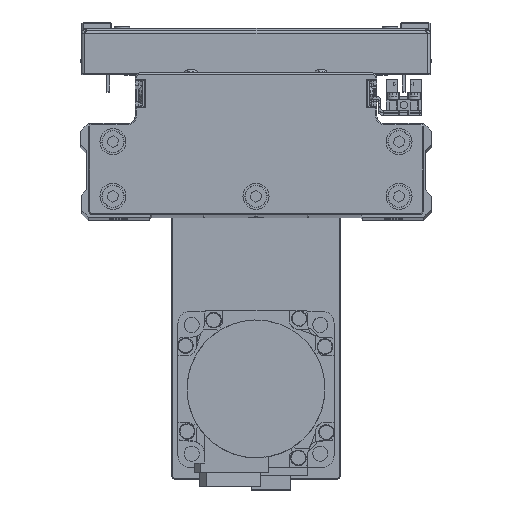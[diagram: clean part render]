
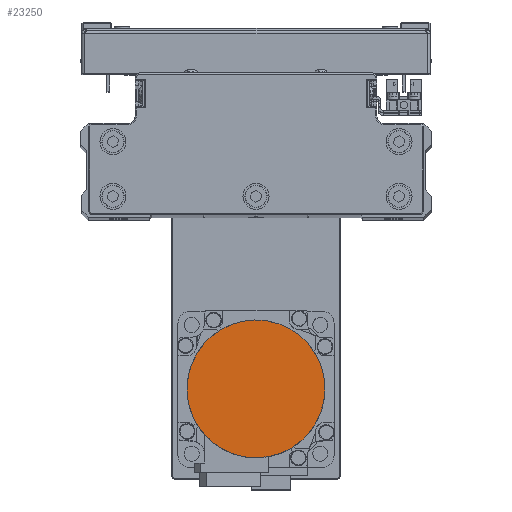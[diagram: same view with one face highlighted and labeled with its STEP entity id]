
A CAD part, top view. The second image highlights one B-rep face of the part: STEP entity #23250.
In plain terms, the highlighted planar face has unit normal (0, 0, 1) as drawn and (0, 0, -1) by its records, which use the part's own axes.
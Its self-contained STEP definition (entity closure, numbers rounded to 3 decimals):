
#751 = CARTESIAN_POINT ( 'NONE',  ( 17.512, 19.965, -109.7 ) ) ;
#965 = CARTESIAN_POINT ( 'NONE',  ( -13.28, 22.998, -109.7 ) ) ;
#1298 = PLANE ( 'NONE',  #17702 ) ;
#2313 = CARTESIAN_POINT ( 'NONE',  ( -16.165, -21.07, -109.7 ) ) ;
#2493 = VERTEX_POINT ( 'NONE', #8031 ) ;
#2531 = CARTESIAN_POINT ( 'NONE',  ( 16.165, -21.07, -109.7 ) ) ;
#4077 = CARTESIAN_POINT ( 'NONE',  ( 22.998, 13.28, -109.7 ) ) ;
#4290 = CARTESIAN_POINT ( 'NONE',  ( -6.871, 25.652, -109.7 ) ) ;
#4299 = VERTEX_POINT ( 'NONE', #35826 ) ;
#4507 = CARTESIAN_POINT ( 'NONE',  ( -26.5, 1.734, -109.7 ) ) ;
#5444 = ORIENTED_EDGE ( 'NONE', *, *, #20931, .F. ) ;
#5637 = CARTESIAN_POINT ( 'NONE',  ( -21.07, -16.165, -109.7 ) ) ;
#5849 = CARTESIAN_POINT ( 'NONE',  ( 8.539, -25.147, -109.7 ) ) ;
#6070 = CARTESIAN_POINT ( 'NONE',  ( 26.5, 0., -109.7 ) ) ;
#7387 = CARTESIAN_POINT ( 'NONE',  ( 25.652, 6.871, -109.7 ) ) ;
#7615 = CARTESIAN_POINT ( 'NONE',  ( 1.734, 26.5, -109.7 ) ) ;
#7833 = CARTESIAN_POINT ( 'NONE',  ( -25.147, 8.539, -109.7 ) ) ;
#8031 = CARTESIAN_POINT ( 'NONE',  ( 26.5, 0., -109.7 ) ) ;
#8957 = CARTESIAN_POINT ( 'NONE',  ( -25.147, -8.539, -109.7 ) ) ;
#9180 = CARTESIAN_POINT ( 'NONE',  ( 1.734, -26.5, -109.7 ) ) ;
#9397 = CARTESIAN_POINT ( 'NONE',  ( 25.652, -6.871, -109.7 ) ) ;
#10086 = EDGE_LOOP ( 'NONE', ( #34563, #5444 ) ) ;
#10712 = CARTESIAN_POINT ( 'NONE',  ( 26.5, 0., -109.7 ) ) ;
#10927 = CARTESIAN_POINT ( 'NONE',  ( 8.539, 25.147, -109.7 ) ) ;
#11153 = B_SPLINE_CURVE_WITH_KNOTS ( 'NONE', 3,
 ( #42558, #12264, #25767, #39246, #8957, #22450, #35945, #5637, #19136, #32617, #2313, #15797, #29308, #42770, #12492, #25987, #39466, #9180, #22659, #36159, #5849, #19353, #32836, #2531, #16026, #29545, #42986, #12705, #26195, #39680, #9397, #22867, #36372, #6070 ),
 .UNSPECIFIED., .F., .F.,
 ( 4, 2, 2, 2, 2, 2, 2, 2, 2, 2, 2, 2, 2, 2, 2, 2, 4 ),
 ( 0., 0.063, 0.125, 0.188, 0.25, 0.312, 0.375, 0.437, 0.5, 0.562, 0.625, 0.687, 0.75, 0.813, 0.875, 0.938, 1. ),
 .UNSPECIFIED. ) ;
#11161 = CARTESIAN_POINT ( 'NONE',  ( -21.07, 16.165, -109.7 ) ) ;
#12264 = CARTESIAN_POINT ( 'NONE',  ( -26.5, -1.734, -109.7 ) ) ;
#12492 = CARTESIAN_POINT ( 'NONE',  ( -6.871, -25.652, -109.7 ) ) ;
#12705 = CARTESIAN_POINT ( 'NONE',  ( 22.998, -13.28, -109.7 ) ) ;
#14245 = CARTESIAN_POINT ( 'NONE',  ( 16.165, 21.07, -109.7 ) ) ;
#14468 = CARTESIAN_POINT ( 'NONE',  ( -16.165, 21.07, -109.7 ) ) ;
#14800 = CARTESIAN_POINT ( 'NONE',  ( 0., 0., -109.7 ) ) ;
#15797 = CARTESIAN_POINT ( 'NONE',  ( -13.28, -22.998, -109.7 ) ) ;
#16026 = CARTESIAN_POINT ( 'NONE',  ( 17.512, -19.965, -109.7 ) ) ;
#17574 = CARTESIAN_POINT ( 'NONE',  ( 21.07, 16.165, -109.7 ) ) ;
#17702 = AXIS2_PLACEMENT_3D ( 'NONE', #14800, #28297, #41757 ) ;
#17787 = CARTESIAN_POINT ( 'NONE',  ( -8.539, 25.147, -109.7 ) ) ;
#18004 = CARTESIAN_POINT ( 'NONE',  ( -26.5, 0., -109.7 ) ) ;
#19136 = CARTESIAN_POINT ( 'NONE',  ( -19.965, -17.512, -109.7 ) ) ;
#19353 = CARTESIAN_POINT ( 'NONE',  ( 11.744, -23.819, -109.7 ) ) ;
#20889 = CARTESIAN_POINT ( 'NONE',  ( 25.147, 8.539, -109.7 ) ) ;
#20931 = EDGE_CURVE ( 'NONE', #4299, #2493, #11153, .T. ) ;
#21115 = CARTESIAN_POINT ( 'NONE',  ( -1.734, 26.5, -109.7 ) ) ;
#21328 = CARTESIAN_POINT ( 'NONE',  ( -25.652, 6.871, -109.7 ) ) ;
#22450 = CARTESIAN_POINT ( 'NONE',  ( -23.819, -11.744, -109.7 ) ) ;
#22659 = CARTESIAN_POINT ( 'NONE',  ( 3.469, -26.329, -109.7 ) ) ;
#22867 = CARTESIAN_POINT ( 'NONE',  ( 26.329, -3.469, -109.7 ) ) ;
#23250 = ADVANCED_FACE ( 'NONE', ( #31606 ), #1298, .F. ) ;
#24193 = CARTESIAN_POINT ( 'NONE',  ( 26.5, 1.734, -109.7 ) ) ;
#24411 = CARTESIAN_POINT ( 'NONE',  ( 6.871, 25.652, -109.7 ) ) ;
#24637 = CARTESIAN_POINT ( 'NONE',  ( -22.998, 13.28, -109.7 ) ) ;
#25327 = EDGE_CURVE ( 'NONE', #2493, #4299, #41019, .T. ) ;
#25767 = CARTESIAN_POINT ( 'NONE',  ( -26.329, -3.469, -109.7 ) ) ;
#25987 = CARTESIAN_POINT ( 'NONE',  ( -3.469, -26.329, -109.7 ) ) ;
#26195 = CARTESIAN_POINT ( 'NONE',  ( 23.819, -11.744, -109.7 ) ) ;
#27742 = CARTESIAN_POINT ( 'NONE',  ( 13.28, 22.998, -109.7 ) ) ;
#27963 = CARTESIAN_POINT ( 'NONE',  ( -17.512, 19.965, -109.7 ) ) ;
#28297 = DIRECTION ( 'NONE',  ( 0., 0., 1. ) ) ;
#29308 = CARTESIAN_POINT ( 'NONE',  ( -11.744, -23.819, -109.7 ) ) ;
#29545 = CARTESIAN_POINT ( 'NONE',  ( 19.965, -17.512, -109.7 ) ) ;
#31068 = CARTESIAN_POINT ( 'NONE',  ( 19.965, 17.512, -109.7 ) ) ;
#31277 = CARTESIAN_POINT ( 'NONE',  ( -11.744, 23.819, -109.7 ) ) ;
#31606 = FACE_OUTER_BOUND ( 'NONE', #10086, .T. ) ;
#32617 = CARTESIAN_POINT ( 'NONE',  ( -17.512, -19.965, -109.7 ) ) ;
#32836 = CARTESIAN_POINT ( 'NONE',  ( 13.28, -22.998, -109.7 ) ) ;
#34389 = CARTESIAN_POINT ( 'NONE',  ( 23.819, 11.744, -109.7 ) ) ;
#34563 = ORIENTED_EDGE ( 'NONE', *, *, #25327, .F. ) ;
#34606 = CARTESIAN_POINT ( 'NONE',  ( -3.469, 26.329, -109.7 ) ) ;
#34827 = CARTESIAN_POINT ( 'NONE',  ( -26.329, 3.469, -109.7 ) ) ;
#35826 = CARTESIAN_POINT ( 'NONE',  ( -26.5, 0., -109.7 ) ) ;
#35945 = CARTESIAN_POINT ( 'NONE',  ( -22.998, -13.28, -109.7 ) ) ;
#36159 = CARTESIAN_POINT ( 'NONE',  ( 6.871, -25.652, -109.7 ) ) ;
#36372 = CARTESIAN_POINT ( 'NONE',  ( 26.5, -1.734, -109.7 ) ) ;
#37688 = CARTESIAN_POINT ( 'NONE',  ( 26.329, 3.469, -109.7 ) ) ;
#37911 = CARTESIAN_POINT ( 'NONE',  ( 3.469, 26.329, -109.7 ) ) ;
#38128 = CARTESIAN_POINT ( 'NONE',  ( -23.819, 11.744, -109.7 ) ) ;
#39246 = CARTESIAN_POINT ( 'NONE',  ( -25.652, -6.871, -109.7 ) ) ;
#39466 = CARTESIAN_POINT ( 'NONE',  ( -1.734, -26.5, -109.7 ) ) ;
#39680 = CARTESIAN_POINT ( 'NONE',  ( 25.147, -8.539, -109.7 ) ) ;
#41019 = B_SPLINE_CURVE_WITH_KNOTS ( 'NONE', 3,
 ( #10712, #24193, #37688, #7387, #20889, #34389, #4077, #17574, #31068, #751, #14245, #27742, #41213, #10927, #24411, #37911, #7615, #21115, #34606, #4290, #17787, #31277, #965, #14468, #27963, #41437, #11161, #24637, #38128, #7833, #21328, #34827, #4507, #18004 ),
 .UNSPECIFIED., .F., .F.,
 ( 4, 2, 2, 2, 2, 2, 2, 2, 2, 2, 2, 2, 2, 2, 2, 2, 4 ),
 ( 0., 0.062, 0.125, 0.187, 0.25, 0.312, 0.375, 0.437, 0.5, 0.562, 0.625, 0.687, 0.75, 0.813, 0.875, 0.938, 1. ),
 .UNSPECIFIED. ) ;
#41213 = CARTESIAN_POINT ( 'NONE',  ( 11.744, 23.819, -109.7 ) ) ;
#41437 = CARTESIAN_POINT ( 'NONE',  ( -19.965, 17.512, -109.7 ) ) ;
#41757 = DIRECTION ( 'NONE',  ( 1., 0., 0. ) ) ;
#42558 = CARTESIAN_POINT ( 'NONE',  ( -26.5, 0., -109.7 ) ) ;
#42770 = CARTESIAN_POINT ( 'NONE',  ( -8.539, -25.147, -109.7 ) ) ;
#42986 = CARTESIAN_POINT ( 'NONE',  ( 21.07, -16.165, -109.7 ) ) ;
